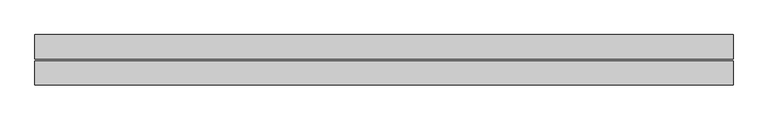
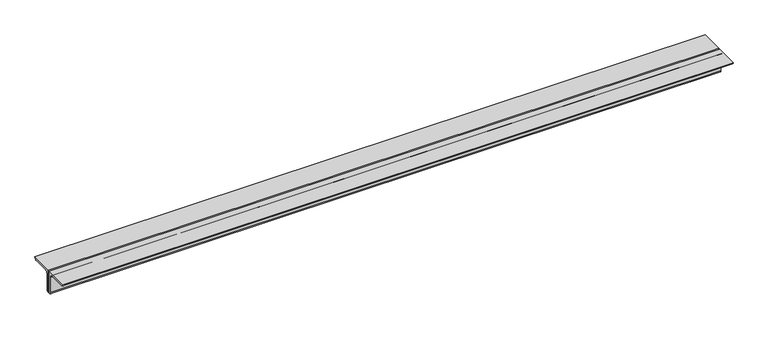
"""IFC4 building model written with IfcOpenShell, lengths in millimetres: beam geometry, Profilati doppi a L : DCED150x12."""

from ifc_helpers import new_model, si_unit, point, frame, frame_2d, origin, place, context, project, spatial, polyline, circle_curve, trimmed, segment, composite_curve, outline, extrude, source, transform, mapped, element, save


def beam_10ac7902(model_context):
    return source(origin(), model_context, "Body", "SweptSolid", [
        extrude(outline(composite_curve([segment(polyline([(6.0, 42.4), (156.0, 42.4)]), True, "CONTINUOUS"), segment(trimmed(circle_curve(frame_2d((141.0, 42.4)), 15.0), [point((156.0, 42.4))], [point((141.0, 27.4))], False, "CARTESIAN"), True, "CONTINUOUS"), segment(polyline([(141.0, 27.4), (36.0, 27.4)]), True, "CONTINUOUS"), segment(trimmed(circle_curve(frame_2d((36.0, 12.4)), 15.0), [point((36.0, 27.4))], [point((21.0, 12.4))], True, "CARTESIAN"), True, "CONTINUOUS"), segment(polyline([(21.0, 12.4), (21.0, -92.6)]), True, "CONTINUOUS"), segment(trimmed(circle_curve(frame_2d((6.0, -92.6)), 15.0), [point((21.0, -92.6))], [point((6.0, -107.6))], False, "CARTESIAN"), True, "CONTINUOUS"), segment(polyline([(6.0, -107.6), (6.0, 42.4)]), True, "CONTINUOUS")], self_intersect=False)), frame((-2012.0, 0.0, 0.0), z_axis=(1.0, 0.0, 0.0), x_axis=(0.0, 1.0, 0.0)), (0.0, 0.0, 1.0), 4312.0),
        extrude(outline(composite_curve([segment(polyline([(-6.0, 42.4), (-6.0, -107.6)]), True, "CONTINUOUS"), segment(trimmed(circle_curve(frame_2d((-6.0, -92.6)), 15.0), [point((-6.0, -107.6))], [point((-21.0, -92.6))], False, "CARTESIAN"), True, "CONTINUOUS"), segment(polyline([(-21.0, -92.6), (-21.0, 12.4)]), True, "CONTINUOUS"), segment(trimmed(circle_curve(frame_2d((-36.0, 12.4)), 15.0), [point((-21.0, 12.4))], [point((-36.0, 27.4))], True, "CARTESIAN"), True, "CONTINUOUS"), segment(polyline([(-36.0, 27.4), (-141.0, 27.4)]), True, "CONTINUOUS"), segment(trimmed(circle_curve(frame_2d((-141.0, 42.4)), 15.0), [point((-141.0, 27.4))], [point((-156.0, 42.4))], False, "CARTESIAN"), True, "CONTINUOUS"), segment(polyline([(-156.0, 42.4), (-6.0, 42.4)]), True, "CONTINUOUS")], self_intersect=False)), frame((-2012.0, 0.0, 0.0), z_axis=(1.0, 0.0, 0.0), x_axis=(0.0, 1.0, 0.0)), (0.0, 0.0, 1.0), 4312.0),
    ])


if __name__ == "__main__":
    model = new_model("IFC4")
    model_context = context("Model", 3, world=origin())
    ifc_project = project(units=[si_unit("LENGTHUNIT", "METRE", prefix="MILLI")], contexts=[model_context])
    site = spatial("IfcSite", under=ifc_project)
    building = spatial("IfcBuilding", under=site)
    placement = place(None, origin())
    beam_shape = beam_10ac7902(model_context)
    element("IfcBeam", 1, ObjectType="Profilati doppi a L : DCED150x12", at=placement, inside=building, context=model_context, shape_type="MappedRepresentation", body=[
        mapped(beam_shape, transform((0.0, 0.0, 0.0), x_axis=(1.0, 0.0, 0.0), y_axis=(0.0, 1.0, 0.0), z_axis=(0.0, 0.0, 1.0))),
    ])
    save(model, "model.ifc")
